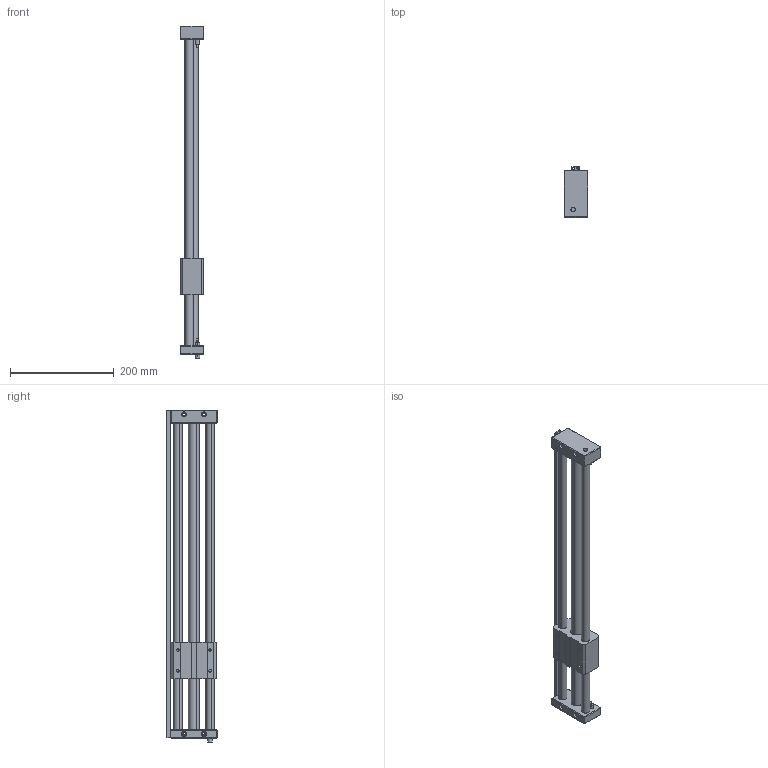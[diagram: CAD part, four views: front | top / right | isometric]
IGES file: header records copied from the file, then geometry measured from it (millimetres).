
Start section: SolidWorks IGES file using analytic representation for surfaces
Global section: file name: D:\Documents de SGA\Pieces 2D et 3D\GRU\iges\Assemblage7.IGS; native system: SolidWorks 2010; preprocessor: SolidWorks 2010; author: SGA; date: 111216.104949; units: millimetre
Bounding box: 45 x 97.52 x 639.6 mm (x, y, z)
Surface area: 216846.8 mm2 (no closed solid volume)
Topology: 0 solids, 0 shells, 211 faces, 3650 edges, 3650 vertices
Faces by surface type: bspline 111, revolution 100
